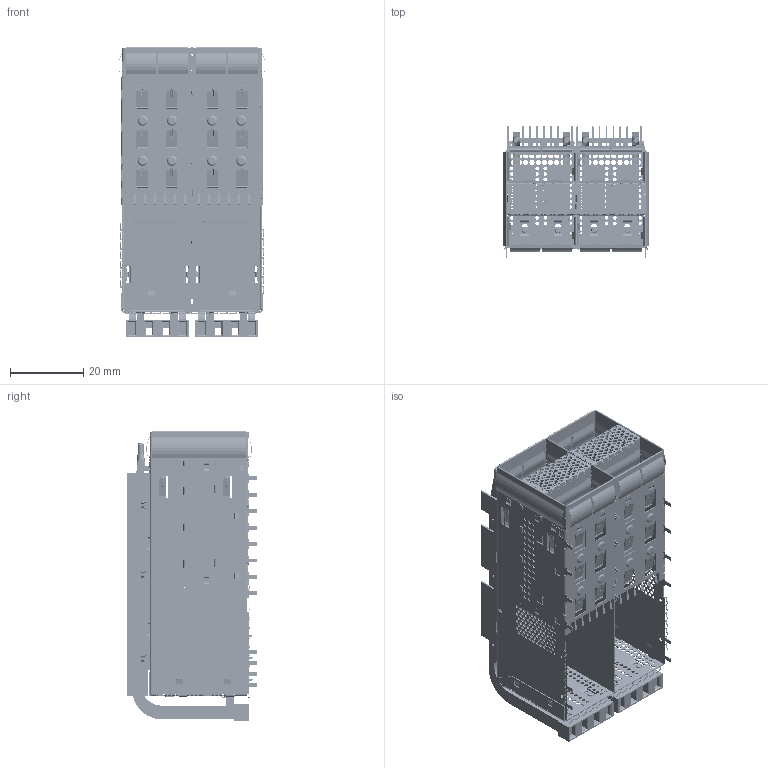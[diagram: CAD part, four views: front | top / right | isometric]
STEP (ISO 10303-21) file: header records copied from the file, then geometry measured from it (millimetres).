
FILE_DESCRIPTION((''),'2;1');
FILE_NAME('Q112_2X2_CAGE_ASM_1_1_1','2026-06-26T15:56:11',('39002408'),(''),'CREO PARAMETRIC BY PTC INC, 2019471','CREO PARAMETRIC BY PTC INC, 2019471','');
FILE_SCHEMA(('CONFIG_CONTROL_DESIGN'));
Products named in the file (1): Q112_2X2_CAGE_ASM_1_1_1
Bounding box: 40.23 x 35.85 x 79.52 mm (x, y, z)
Volume: 15991.1 mm3; surface area: 62117.1 mm2
Topology: 1 solids, 1 shells, 10267 faces, 29669 edges, 19104 vertices
Faces by surface type: cylinder 5324, plane 4331, bspline 308, torus 264, cone 40
Entity records: 356923 total; most frequent: CARTESIAN_POINT 76856, DIRECTION 59556, ORIENTED_EDGE 59338, EDGE_CURVE 29669, AXIS2_PLACEMENT_3D 21411, VERTEX_POINT 19104, VECTOR 16734, LINE 16734
